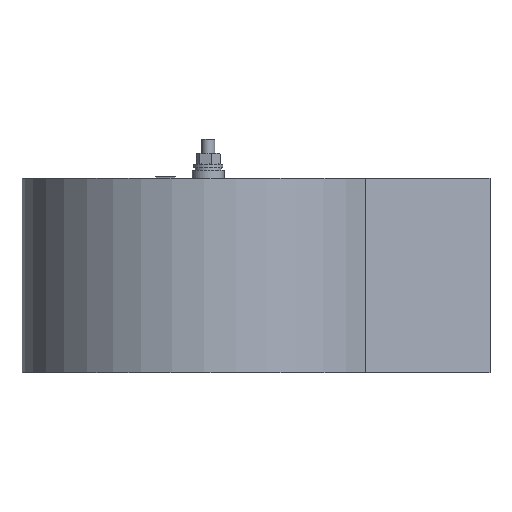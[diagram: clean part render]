
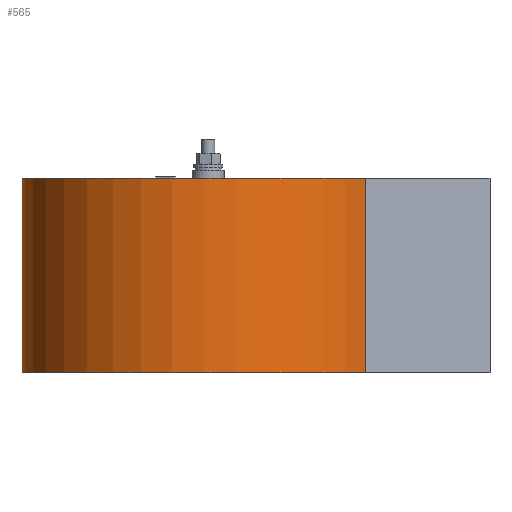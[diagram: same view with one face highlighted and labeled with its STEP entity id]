
A CAD part, left-side view. The second image highlights one B-rep face of the part: STEP entity #565.
In plain terms, the highlighted cylindrical face has radius 115 mm (diameter 230 mm), a partial arc.
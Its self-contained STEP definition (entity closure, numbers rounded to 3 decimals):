
#565=ADVANCED_FACE('',(#2043),#2045,.T.);
#2043=FACE_BOUND('',#2044,.T.);
#2044=EDGE_LOOP('',(#3238,#3239,#3240,#3241));
#2045=CYLINDRICAL_SURFACE('',#2046,115.);
#2046=AXIS2_PLACEMENT_3D('',#2047,#2048,#2049);
#2047=CARTESIAN_POINT('',(0.,0.,0.));
#2048=DIRECTION('',(0.,0.,1.));
#2049=DIRECTION('',(0.534,-0.846,0.));
#3238=ORIENTED_EDGE('',*,*,#3886,.T.);
#3239=ORIENTED_EDGE('',*,*,#3991,.T.);
#3240=ORIENTED_EDGE('',*,*,#3890,.F.);
#3241=ORIENTED_EDGE('',*,*,#3888,.F.);
#3886=EDGE_CURVE('',#4293,#4295,#4297,.T.);
#3888=EDGE_CURVE('',#4293,#4300,#4301,.T.);
#3890=EDGE_CURVE('',#4300,#4303,#4304,.T.);
#3991=EDGE_CURVE('',#4295,#4303,#4504,.T.);
#4293=VERTEX_POINT('',#5006);
#4295=VERTEX_POINT('',#5010);
#4297=CIRCLE('',#5014,115.);
#4300=VERTEX_POINT('',#5023);
#4301=LINE('',#5024,#5025);
#4303=VERTEX_POINT('',#5030);
#4304=CIRCLE('',#5031,115.);
#4504=LINE('',#5513,#5514);
#5006=CARTESIAN_POINT('',(61.389,-97.244,0.));
#5010=CARTESIAN_POINT('',(-61.389,-97.244,0.));
#5014=AXIS2_PLACEMENT_3D('',#5015,#5016,#5017);
#5015=CARTESIAN_POINT('',(0.,0.,0.));
#5016=DIRECTION('',(0.,0.,1.));
#5017=DIRECTION('',(0.534,-0.846,0.));
#5023=CARTESIAN_POINT('',(61.389,-97.244,120.));
#5024=CARTESIAN_POINT('',(61.389,-97.244,0.));
#5025=VECTOR('',#5026,1.);
#5026=DIRECTION('',(0.,0.,1.));
#5030=CARTESIAN_POINT('',(-61.389,-97.244,120.));
#5031=AXIS2_PLACEMENT_3D('',#5032,#5033,#5034);
#5032=CARTESIAN_POINT('',(0.,0.,120.));
#5033=DIRECTION('',(0.,0.,1.));
#5034=DIRECTION('',(0.534,-0.846,0.));
#5513=CARTESIAN_POINT('',(-61.389,-97.244,0.));
#5514=VECTOR('',#5515,1.);
#5515=DIRECTION('',(0.,0.,1.));
